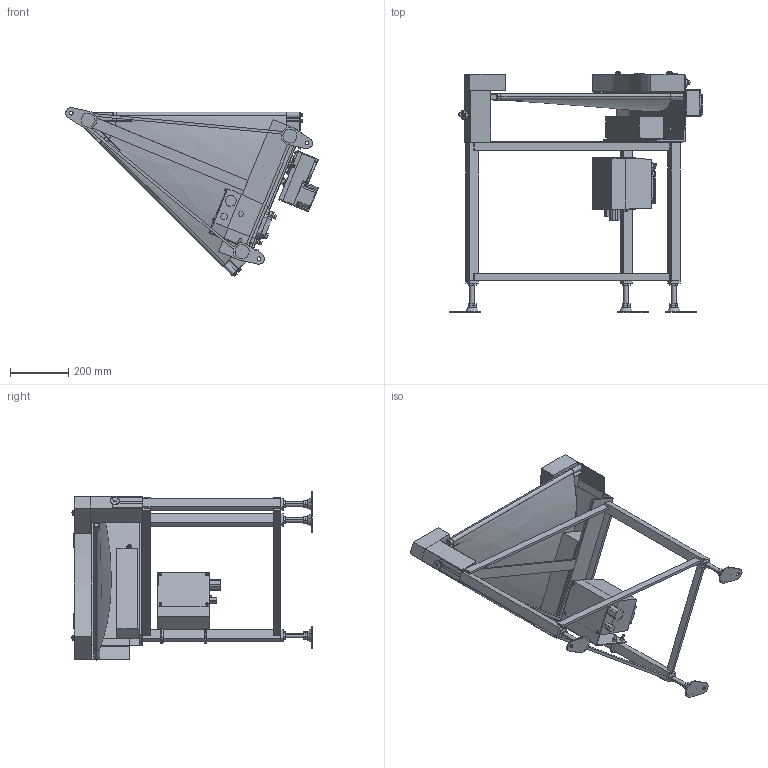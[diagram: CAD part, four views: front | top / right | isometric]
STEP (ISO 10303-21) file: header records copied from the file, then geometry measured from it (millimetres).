
FILE_DESCRIPTION (( 'STEP AP214' ), '1' );
FILE_NAME ('GFBC45-HS500-DC-R.STEP', '2024-01-18T01:34:38', ( '' ), ( '' ), 'SwSTEP 2.0', 'SolidWorks 2017', '' );
FILE_SCHEMA (( 'AUTOMOTIVE_DESIGN' ));
Length unit declared in the file: millimetre
Products named in the file (1): GFBC45-HS500-DC-R
Bounding box: 868.74 x 827.92 x 580.08 mm (x, y, z)
Volume: 16269717 mm3; surface area: 3167000.8 mm2
Topology: 65 solids, 66 shells, 1388 faces, 3258 edges, 2093 vertices
Faces by surface type: plane 872, cylinder 408, bspline 44, cone 40, torus 20, sphere 4
Entity records: 47732 total; most frequent: CARTESIAN_POINT 14814, DIRECTION 6704, ORIENTED_EDGE 6468, EDGE_CURVE 3234, AXIS2_PLACEMENT_3D 2286, VECTOR 2132, LINE 2132, VERTEX_POINT 2093
